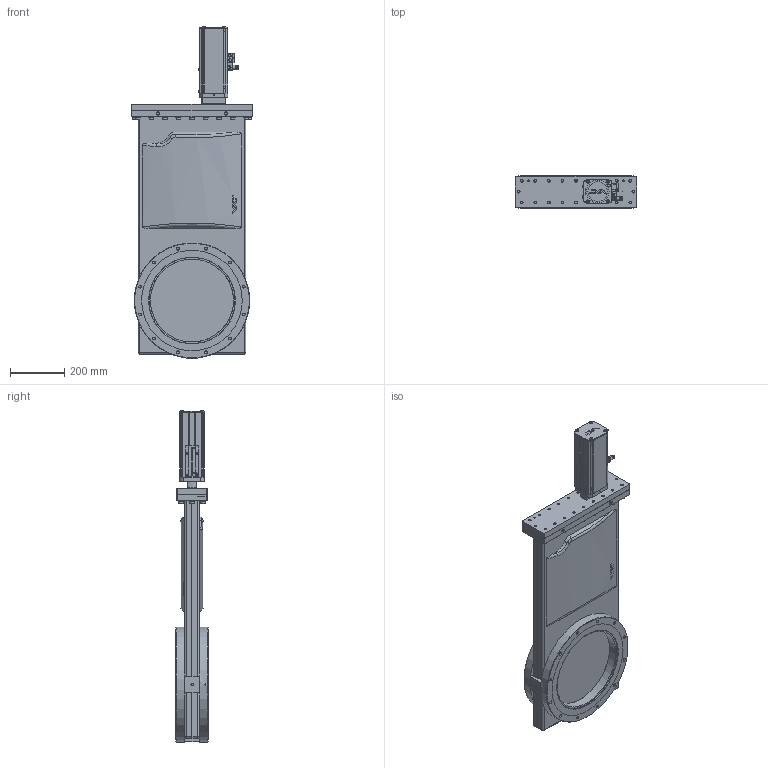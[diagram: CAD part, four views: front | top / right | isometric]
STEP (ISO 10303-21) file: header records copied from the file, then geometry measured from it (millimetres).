
FILE_DESCRIPTION(/* description */ (''),/* implementation_level */ '2;1');
FILE_NAME(/* name */ '1090276472_203.stp',/* time_stamp */ '2015-02-05T12:31:57+01:00',/* author */ (''),/* organization */ (''),/* preprocessor_version */ 'ST-DEVELOPER v11',/* originating_system */ 'SIEMENS PLM Software NX 7.5',/* authorisation */ '');
FILE_SCHEMA (('AP203_CONFIGURATION_CONTROLLED_3D_DESIGN_OF_MECHANICAL_PARTS_AND_ASSEMBLIES_MIM_LF'));
Length unit declared in the file: millimetre
Products named in the file (35): 467882; 437235; 65664-01.2_21275ID; 457464_21281ID; 457464_21272ID; 386293_21279ID; N-6024-538.1; 496677; N-7557-016_1.1; N-7557-018.1; N-7557-016_2.1; N-6024-524.1; N-5018-005.1; 85949-01.1; N-6024-571.1; 87172-01.1; 74628-01.3; 65313-01.1; 86824-01.2; 86827-01.3_21867ID; 86827-01.3_53721ID; 86831.2; 752549; n-6134-410; 218206.1; 752564; 496679; N-7557-016_3.1_MODELNX-ARRAGMNTArrangement 1; 94800-r1.7_NX-ARRAGMNTKONFIG1; 94226-01.2; 94239-r1.5; 752520_NX-ARRAGMNTMASSBILD; 386313_MODEL; 86830-r1_MODEL; 771769
Assembly tree (89 placements, depth 4):
  771769
    86830-r1_MODEL
      386313_MODEL
        386293_21279ID
        457464_21272ID
        457464_21281ID
      86831.2  x3
      86827-01.3_53721ID
      86827-01.3_21867ID
    752520_NX-ARRAGMNTMASSBILD
      86824-01.2
      65313-01.1
      74628-01.3
    752564
    94239-r1.5
      87172-01.1  x4
      N-6024-571.1  x4
      85949-01.1
      94226-01.2
        65664-01.2_21275ID
    94800-r1.7_NX-ARRAGMNTKONFIG1
      N-5018-005.1  x2
      N-6024-524.1  x6
      N-7557-016_2.1
      N-7557-018.1
      N-7557-016_1.1
      N-7557-016_3.1_MODELNX-ARRAGMNTArrangement 1
        437235
        467882
    218206.1  x20
    n-6134-410  x20
    752549
    496679
      496677
      N-6024-538.1  x4
Bounding box: 448 x 120 x 1222.36 mm (x, y, z)
Volume: 13143836.4 mm3; surface area: 2699060.6 mm2
Topology: 121 solids, 121 shells, 1980 faces, 4836 edges, 3204 vertices
Faces by surface type: plane 1193, cylinder 502, cone 139, extrusion 45, bspline 36, torus 36, sphere 29
Full cylindrical faces by diameter (mm): 0.4 x1, 2.125 x1, 2.5 x2, 2.65 x1, 3 x10, 3.2 x2, 3.3 x4, 3.4 x4, 3.5 x3, 4 x6, 4.2 x4, 4.22 x1, 4.3 x4, 4.35 x2, 4.4 x4, 4.5 x2, 4.6 x2, 5 x7, 5.2 x4, 5.5 x1, 5.9 x1, 5.99 x2, 6 x17, 6.25 x2, 6.6 x4, 7 x1, 7.05 x1, 7.982 x4, 8 x4, 8.36 x20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
Entity records: 50534 total; most frequent: CARTESIAN_POINT 11595, ORIENTED_EDGE 5762, DIRECTION 5594, EDGE_CURVE 2881, VERTEX_POINT 2132, AXIS2_PLACEMENT_3D 2110, EDGE_LOOP 1826, VECTOR 1374
